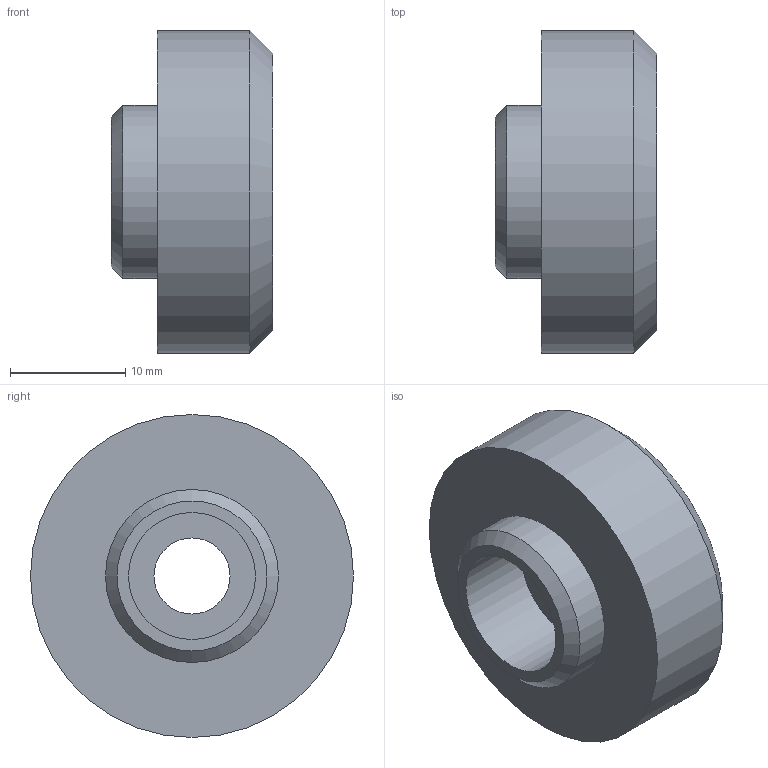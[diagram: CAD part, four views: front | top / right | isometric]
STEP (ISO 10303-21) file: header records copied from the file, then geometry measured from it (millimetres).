
FILE_DESCRIPTION(/* description */ (''),/* implementation_level */ '2;1');
FILE_NAME(/* name */ '',/* time_stamp */ '2025-09-02T10:43:49+09:00',/* author */ ('jhkim'),/* organization */ (''),/* preprocessor_version */ 'ST-DEVELOPER v20.1',/* originating_system */ 'Autodesk Inventor 2026',/* authorisation */ '');
FILE_SCHEMA (('AUTOMOTIVE_DESIGN { 1 0 10303 214 3 1 1 }'));
Length unit declared in the file: millimetre
Products named in the file (1): 어댑터
Bounding box: 14 x 28 x 28 mm (x, y, z)
Volume: 4654 mm3; surface area: 2628.6 mm2
Topology: 1 solids, 1 shells, 13 faces, 24 edges, 16 vertices
Faces by surface type: plane 5, cylinder 5, cone 3
Full cylindrical faces by diameter (mm): 6.6 x1, 11 x1, 15 x1, 20 x1, 28 x1
Entity records: 381 total; most frequent: DIRECTION 68, CARTESIAN_POINT 54, ORIENTED_EDGE 48, AXIS2_PLACEMENT_3D 30, EDGE_CURVE 24, EDGE_LOOP 18, CIRCLE 16, VERTEX_POINT 16
